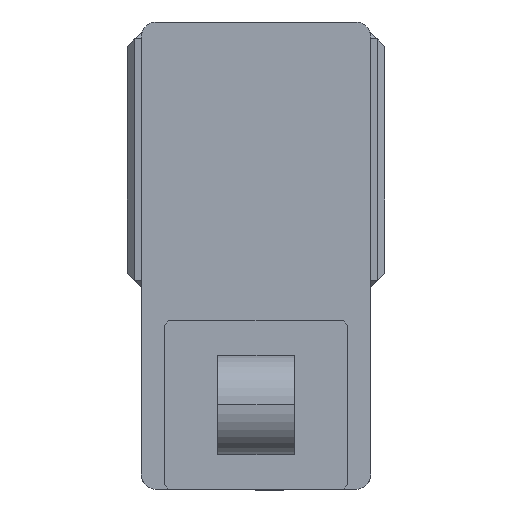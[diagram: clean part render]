
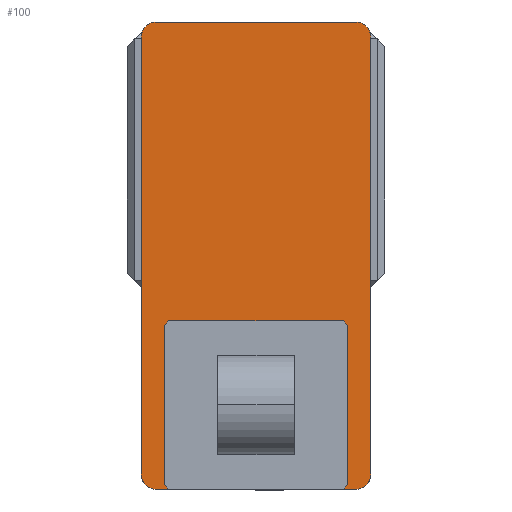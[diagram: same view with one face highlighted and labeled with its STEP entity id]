
A CAD part, left-side view. The second image highlights one B-rep face of the part: STEP entity #100.
In plain terms, the highlighted planar face has unit normal (-1, 0, 0) as drawn and (0, 0, 1) by its records, which use the part's own axes.
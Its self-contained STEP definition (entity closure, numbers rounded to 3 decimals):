
#44 = FACE_OUTER_BOUND ( 'NONE', #8183, .T. ) ;
#100 = ADVANCED_FACE ( 'NONE', ( #44 ), #8494, .T. ) ;
#183 = VERTEX_POINT ( 'NONE', #7293 ) ;
#369 = DIRECTION ( 'NONE',  ( 1., 0., 0. ) ) ;
#555 = EDGE_CURVE ( 'NONE', #4415, #610, #2868, .T. ) ;
#557 = DIRECTION ( 'NONE',  ( 0., 1., 0. ) ) ;
#600 = ORIENTED_EDGE ( 'NONE', *, *, #8719, .T. ) ;
#610 = VERTEX_POINT ( 'NONE', #2982 ) ;
#891 = CIRCLE ( 'NONE', #9026, 10. ) ;
#1305 = ORIENTED_EDGE ( 'NONE', *, *, #7664, .T. ) ;
#1463 = EDGE_CURVE ( 'NONE', #8279, #4415, #3535, .T. ) ;
#1503 = CARTESIAN_POINT ( 'NONE',  ( 65., 152.5, 105. ) ) ;
#1576 = AXIS2_PLACEMENT_3D ( 'NONE', #11024, #11057, #6474 ) ;
#1761 = CARTESIAN_POINT ( 'NONE',  ( 65., -152.5, 105. ) ) ;
#1888 = CARTESIAN_POINT ( 'NONE',  ( -75., -152.5, 105. ) ) ;
#2812 = VERTEX_POINT ( 'NONE', #3584 ) ;
#2823 = EDGE_CURVE ( 'NONE', #2812, #9771, #7761, .T. ) ;
#2868 = CIRCLE ( 'NONE', #3105, 10. ) ;
#2982 = CARTESIAN_POINT ( 'NONE',  ( -75., 142.5, 105. ) ) ;
#3105 = AXIS2_PLACEMENT_3D ( 'NONE', #9957, #9986, #10102 ) ;
#3535 = LINE ( 'NONE', #8814, #8633 ) ;
#3573 = CARTESIAN_POINT ( 'NONE',  ( 65., 142.5, 105. ) ) ;
#3584 = CARTESIAN_POINT ( 'NONE',  ( -65., -152.5, 105. ) ) ;
#3601 = CIRCLE ( 'NONE', #4863, 10. ) ;
#3608 = EDGE_CURVE ( 'NONE', #9771, #3731, #10487, .T. ) ;
#3731 = VERTEX_POINT ( 'NONE', #5625 ) ;
#4354 = ORIENTED_EDGE ( 'NONE', *, *, #3608, .T. ) ;
#4415 = VERTEX_POINT ( 'NONE', #10884 ) ;
#4425 = DIRECTION ( 'NONE',  ( 1., 0., 0. ) ) ;
#4472 = DIRECTION ( 'NONE',  ( 1., 0., 0. ) ) ;
#4557 = AXIS2_PLACEMENT_3D ( 'NONE', #10644, #5511, #369 ) ;
#4708 = VECTOR ( 'NONE', #557, 1000. ) ;
#4863 = AXIS2_PLACEMENT_3D ( 'NONE', #10071, #4926, #10904 ) ;
#4926 = DIRECTION ( 'NONE',  ( 0., 0., 1. ) ) ;
#5110 = VERTEX_POINT ( 'NONE', #10813 ) ;
#5346 = ORIENTED_EDGE ( 'NONE', *, *, #555, .T. ) ;
#5489 = VECTOR ( 'NONE', #4472, 1000. ) ;
#5511 = DIRECTION ( 'NONE',  ( 0., 0., 1. ) ) ;
#5567 = ORIENTED_EDGE ( 'NONE', *, *, #2823, .T. ) ;
#5625 = CARTESIAN_POINT ( 'NONE',  ( 75., -142.5, 105. ) ) ;
#5798 = DIRECTION ( 'NONE',  ( 0., -1., 0. ) ) ;
#6432 = EDGE_CURVE ( 'NONE', #3731, #183, #6982, .T. ) ;
#6474 = DIRECTION ( 'NONE',  ( 1., 0., 0. ) ) ;
#6794 = VECTOR ( 'NONE', #5798, 1000. ) ;
#6982 = LINE ( 'NONE', #7384, #4708 ) ;
#7293 = CARTESIAN_POINT ( 'NONE',  ( 75., 142.5, 105. ) ) ;
#7384 = CARTESIAN_POINT ( 'NONE',  ( 75., 152.5, 105. ) ) ;
#7664 = EDGE_CURVE ( 'NONE', #5110, #2812, #3601, .T. ) ;
#7761 = LINE ( 'NONE', #1888, #5489 ) ;
#8183 = EDGE_LOOP ( 'NONE', ( #5567, #4354, #8725, #8953, #8336, #5346, #600, #1305 ) ) ;
#8279 = VERTEX_POINT ( 'NONE', #1503 ) ;
#8336 = ORIENTED_EDGE ( 'NONE', *, *, #1463, .T. ) ;
#8405 = EDGE_CURVE ( 'NONE', #183, #8279, #891, .T. ) ;
#8494 = PLANE ( 'NONE',  #1576 ) ;
#8633 = VECTOR ( 'NONE', #8782, 1000. ) ;
#8719 = EDGE_CURVE ( 'NONE', #610, #5110, #9345, .T. ) ;
#8725 = ORIENTED_EDGE ( 'NONE', *, *, #6432, .T. ) ;
#8782 = DIRECTION ( 'NONE',  ( -1., 0., 0. ) ) ;
#8814 = CARTESIAN_POINT ( 'NONE',  ( -75., 152.5, 105. ) ) ;
#8953 = ORIENTED_EDGE ( 'NONE', *, *, #8405, .T. ) ;
#9026 = AXIS2_PLACEMENT_3D ( 'NONE', #3573, #9576, #4425 ) ;
#9345 = LINE ( 'NONE', #10919, #6794 ) ;
#9576 = DIRECTION ( 'NONE',  ( 0., 0., 1. ) ) ;
#9771 = VERTEX_POINT ( 'NONE', #1761 ) ;
#9957 = CARTESIAN_POINT ( 'NONE',  ( -65., 142.5, 105. ) ) ;
#9986 = DIRECTION ( 'NONE',  ( 0., 0., 1. ) ) ;
#10071 = CARTESIAN_POINT ( 'NONE',  ( -65., -142.5, 105. ) ) ;
#10102 = DIRECTION ( 'NONE',  ( 1., 0., 0. ) ) ;
#10487 = CIRCLE ( 'NONE', #4557, 10. ) ;
#10644 = CARTESIAN_POINT ( 'NONE',  ( 65., -142.5, 105. ) ) ;
#10813 = CARTESIAN_POINT ( 'NONE',  ( -75., -142.5, 105. ) ) ;
#10884 = CARTESIAN_POINT ( 'NONE',  ( -65., 152.5, 105. ) ) ;
#10904 = DIRECTION ( 'NONE',  ( 1., 0., 0. ) ) ;
#10919 = CARTESIAN_POINT ( 'NONE',  ( -75., 152.5, 105. ) ) ;
#11024 = CARTESIAN_POINT ( 'NONE',  ( 0., 0., 105. ) ) ;
#11057 = DIRECTION ( 'NONE',  ( 0., 0., 1. ) ) ;
